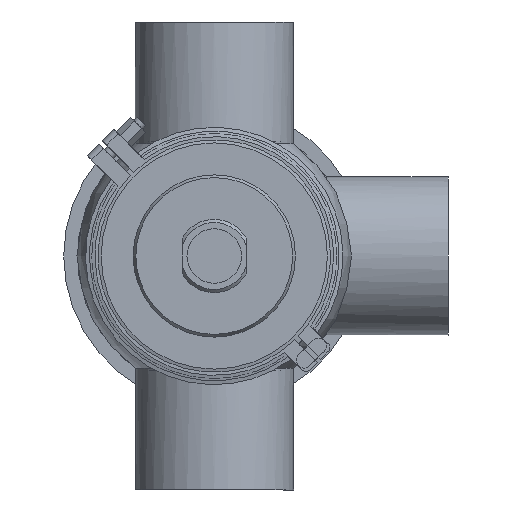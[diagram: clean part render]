
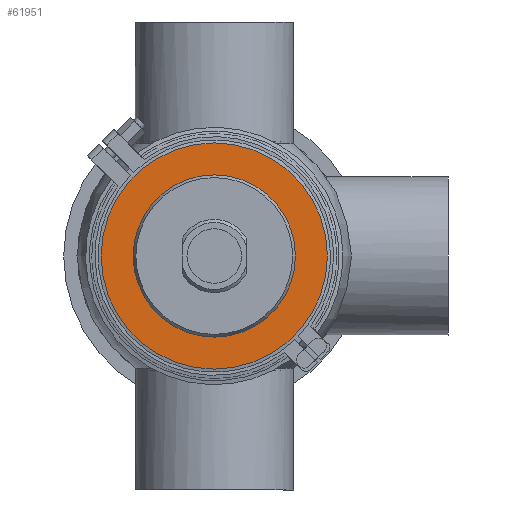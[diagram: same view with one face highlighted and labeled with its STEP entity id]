
A CAD part, front view. The second image highlights one B-rep face of the part: STEP entity #61951.
In plain terms, the highlighted planar face has unit normal (0, -1, 0).
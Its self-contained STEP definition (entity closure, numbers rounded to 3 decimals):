
#574 = FACE_OUTER_BOUND ( 'NONE', #28783, .T. ) ;
#3210 = CARTESIAN_POINT ( 'NONE',  ( 0., -13., 72.5 ) ) ;
#6585 = ORIENTED_EDGE ( 'NONE', *, *, #42413, .T. ) ;
#7771 = VERTEX_POINT ( 'NONE', #3210 ) ;
#10521 = PLANE ( 'NONE',  #13010 ) ;
#10679 = CIRCLE ( 'NONE', #27199, 52. ) ;
#11495 = CARTESIAN_POINT ( 'NONE',  ( -72.5, -13., 0. ) ) ;
#11711 = DIRECTION ( 'NONE',  ( 0., 1., 0. ) ) ;
#13010 = AXIS2_PLACEMENT_3D ( 'NONE', #11495, #30181, #25388 ) ;
#15612 = CARTESIAN_POINT ( 'NONE',  ( 0., -13., 0. ) ) ;
#18656 = EDGE_CURVE ( 'NONE', #7771, #7771, #41765, .T. ) ;
#25388 = DIRECTION ( 'NONE',  ( 0., 0., -1. ) ) ;
#27199 = AXIS2_PLACEMENT_3D ( 'NONE', #62656, #57882, #52722 ) ;
#28783 = EDGE_LOOP ( 'NONE', ( #34762 ) ) ;
#30181 = DIRECTION ( 'NONE',  ( 0., -1., 0. ) ) ;
#30695 = DIRECTION ( 'NONE',  ( 0., 0., 1. ) ) ;
#31487 = AXIS2_PLACEMENT_3D ( 'NONE', #15612, #11711, #30695 ) ;
#34762 = ORIENTED_EDGE ( 'NONE', *, *, #18656, .F. ) ;
#39762 = VERTEX_POINT ( 'NONE', #59735 ) ;
#41765 = CIRCLE ( 'NONE', #31487, 72.5 ) ;
#42413 = EDGE_CURVE ( 'NONE', #39762, #39762, #10679, .T. ) ;
#49441 = FACE_BOUND ( 'NONE', #55576, .T. ) ;
#52722 = DIRECTION ( 'NONE',  ( 0., 0., 1. ) ) ;
#55576 = EDGE_LOOP ( 'NONE', ( #6585 ) ) ;
#57882 = DIRECTION ( 'NONE',  ( 0., 1., 0. ) ) ;
#59735 = CARTESIAN_POINT ( 'NONE',  ( 0., -13., 52. ) ) ;
#61951 = ADVANCED_FACE ( 'NONE', ( #49441, #574 ), #10521, .T. ) ;
#62656 = CARTESIAN_POINT ( 'NONE',  ( 0., -13., 0. ) ) ;
